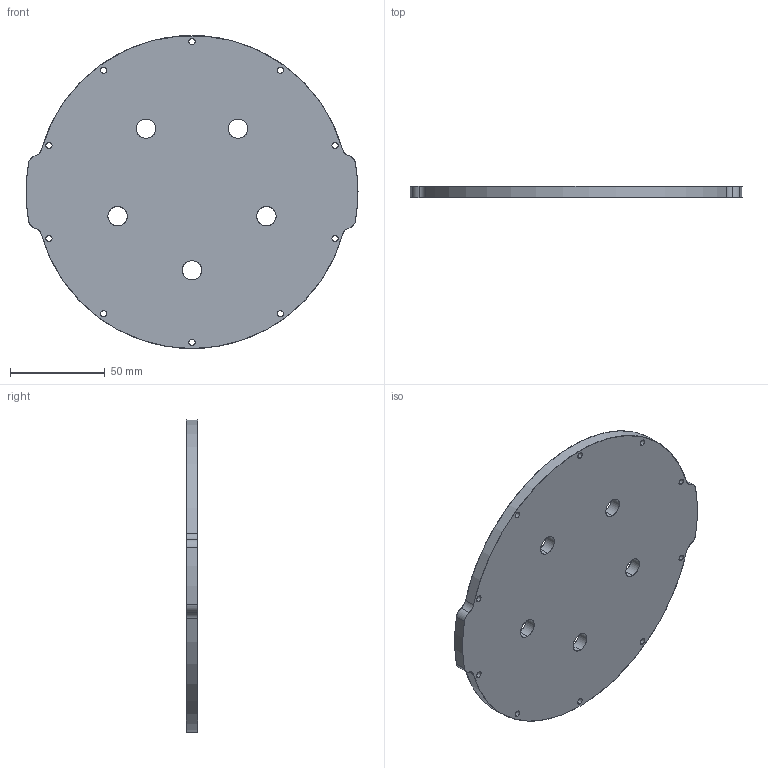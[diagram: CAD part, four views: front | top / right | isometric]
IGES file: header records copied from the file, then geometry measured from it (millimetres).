
Start section: SolidWorks IGES file using analytic representation for surfaces
Global section: file name: C:\Users\Jonathan\Dropbox\BR-Engineering\Models\WTE6-X1A-PUBLIC\WTE6-M-END-CAP-5-10MMX1A.IGS; native system: SolidWorks 2014; preprocessor: SolidWorks 2014; author: Jonathan; date: 170111.141530; units: millimetre
Bounding box: 175.1 x 6 x 165.1 mm (x, y, z)
Surface area: 47361.6 mm2 (no closed solid volume)
Topology: 0 solids, 0 shells, 45 faces, 1020 edges, 1020 vertices
Faces by surface type: revolution 43, bspline 2
